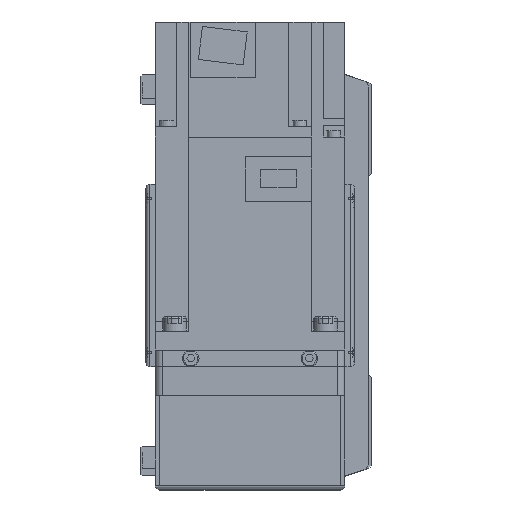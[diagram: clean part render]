
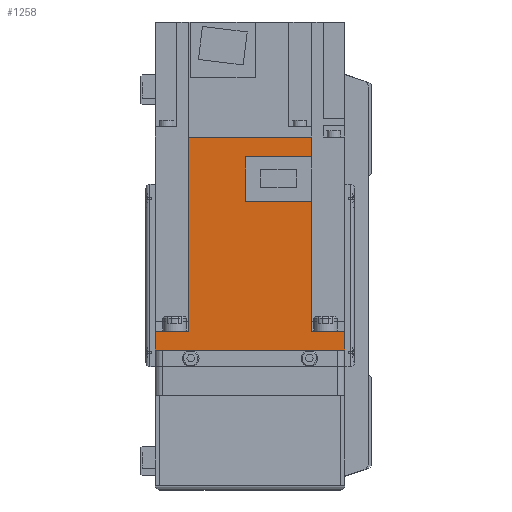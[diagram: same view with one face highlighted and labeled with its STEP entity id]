
A CAD part, left-side view. The second image highlights one B-rep face of the part: STEP entity #1258.
In plain terms, the highlighted planar face has unit normal (-1, 0, 0) as drawn and (1, 0, 0) by its records, which use the part's own axes.
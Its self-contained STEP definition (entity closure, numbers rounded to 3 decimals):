
#1258 = ADVANCED_FACE( '', ( #3501 ), #3502, .F. );
#3501 = FACE_OUTER_BOUND( '', #7119, .T. );
#3502 = PLANE( '', #7120 );
#7119 = EDGE_LOOP( '', ( #10751, #10752, #10753, #10754, #10755, #10756, #10757, #10758, #10759, #10760, #10761, #10762 ) );
#7120 = AXIS2_PLACEMENT_3D( '', #10763, #10764, #10765 );
#10751 = ORIENTED_EDGE( '', *, *, #20346, .F. );
#10752 = ORIENTED_EDGE( '', *, *, #20347, .F. );
#10753 = ORIENTED_EDGE( '', *, *, #20348, .F. );
#10754 = ORIENTED_EDGE( '', *, *, #20349, .T. );
#10755 = ORIENTED_EDGE( '', *, *, #20350, .F. );
#10756 = ORIENTED_EDGE( '', *, *, #20351, .T. );
#10757 = ORIENTED_EDGE( '', *, *, #20352, .T. );
#10758 = ORIENTED_EDGE( '', *, *, #20353, .F. );
#10759 = ORIENTED_EDGE( '', *, *, #20354, .F. );
#10760 = ORIENTED_EDGE( '', *, *, #20355, .F. );
#10761 = ORIENTED_EDGE( '', *, *, #20356, .F. );
#10762 = ORIENTED_EDGE( '', *, *, #20357, .F. );
#10763 = CARTESIAN_POINT( '', ( 40., 89.8, 40. ) );
#10764 = DIRECTION( '', ( -1., 0., 0. ) );
#10765 = DIRECTION( '', ( 0., 0., 1. ) );
#20346 = EDGE_CURVE( '', #24089, #24090, #24091, .T. );
#20347 = EDGE_CURVE( '', #24092, #24089, #24093, .T. );
#20348 = EDGE_CURVE( '', #24094, #24092, #24095, .T. );
#20349 = EDGE_CURVE( '', #24094, #24096, #24097, .T. );
#20350 = EDGE_CURVE( '', #24098, #24096, #24099, .T. );
#20351 = EDGE_CURVE( '', #24098, #24100, #24101, .T. );
#20352 = EDGE_CURVE( '', #24100, #24102, #24103, .T. );
#20353 = EDGE_CURVE( '', #24104, #24102, #24105, .T. );
#20354 = EDGE_CURVE( '', #24106, #24104, #24107, .T. );
#20355 = EDGE_CURVE( '', #24108, #24106, #24109, .T. );
#20356 = EDGE_CURVE( '', #24110, #24108, #24111, .T. );
#20357 = EDGE_CURVE( '', #24090, #24110, #24112, .T. );
#24089 = VERTEX_POINT( '', #29698 );
#24090 = VERTEX_POINT( '', #29699 );
#24091 = LINE( '', #29700, #29701 );
#24092 = VERTEX_POINT( '', #29702 );
#24093 = LINE( '', #29703, #29704 );
#24094 = VERTEX_POINT( '', #29705 );
#24095 = LINE( '', #29706, #29707 );
#24096 = VERTEX_POINT( '', #29708 );
#24097 = LINE( '', #29709, #29710 );
#24098 = VERTEX_POINT( '', #29711 );
#24099 = LINE( '', #29712, #29713 );
#24100 = VERTEX_POINT( '', #29714 );
#24101 = LINE( '', #29715, #29716 );
#24102 = VERTEX_POINT( '', #29717 );
#24103 = LINE( '', #29718, #29719 );
#24104 = VERTEX_POINT( '', #29720 );
#24105 = LINE( '', #29721, #29722 );
#24106 = VERTEX_POINT( '', #29723 );
#24107 = LINE( '', #29724, #29725 );
#24108 = VERTEX_POINT( '', #29726 );
#24109 = LINE( '', #29727, #29728 );
#24110 = VERTEX_POINT( '', #29729 );
#24111 = LINE( '', #29730, #29731 );
#24112 = LINE( '', #29732, #29733 );
#29698 = CARTESIAN_POINT( '', ( 40., 81.4, -25.95 ) );
#29699 = CARTESIAN_POINT( '', ( 40., 81.4, 1.8 ) );
#29700 = CARTESIAN_POINT( '', ( 40., 81.4, -26. ) );
#29701 = VECTOR( '', #38164, 1000. );
#29702 = CARTESIAN_POINT( '', ( 40., 89.8, -25.95 ) );
#29703 = CARTESIAN_POINT( '', ( 40., 158., -25.95 ) );
#29704 = VECTOR( '', #38165, 1000. );
#29705 = CARTESIAN_POINT( '', ( 40., 89.8, 25.95 ) );
#29706 = CARTESIAN_POINT( '', ( 40., 89.8, 40. ) );
#29707 = VECTOR( '', #38166, 1000. );
#29708 = CARTESIAN_POINT( '', ( 40., 8., 25.95 ) );
#29709 = CARTESIAN_POINT( '', ( 40., 158., 25.95 ) );
#29710 = VECTOR( '', #38167, 1000. );
#29711 = CARTESIAN_POINT( '', ( 40., 8., 40. ) );
#29712 = CARTESIAN_POINT( '', ( 40., 8., 40. ) );
#29713 = VECTOR( '', #38168, 1000. );
#29714 = CARTESIAN_POINT( '', ( 40., 0., 40. ) );
#29715 = CARTESIAN_POINT( '', ( 40., 89.8, 40. ) );
#29716 = VECTOR( '', #38169, 1000. );
#29717 = CARTESIAN_POINT( '', ( 40., 0., -40. ) );
#29718 = CARTESIAN_POINT( '', ( 40., 0., 40. ) );
#29719 = VECTOR( '', #38170, 1000. );
#29720 = CARTESIAN_POINT( '', ( 40., 8., -40. ) );
#29721 = CARTESIAN_POINT( '', ( 40., 89.8, -40. ) );
#29722 = VECTOR( '', #38171, 1000. );
#29723 = CARTESIAN_POINT( '', ( 40., 8., -25.95 ) );
#29724 = CARTESIAN_POINT( '', ( 40., 8., 40. ) );
#29725 = VECTOR( '', #38172, 1000. );
#29726 = CARTESIAN_POINT( '', ( 40., 62.8, -25.95 ) );
#29727 = CARTESIAN_POINT( '', ( 40., 158., -25.95 ) );
#29728 = VECTOR( '', #38173, 1000. );
#29729 = CARTESIAN_POINT( '', ( 40., 62.8, 1.8 ) );
#29730 = CARTESIAN_POINT( '', ( 40., 62.8, 1.8 ) );
#29731 = VECTOR( '', #38174, 1000. );
#29732 = CARTESIAN_POINT( '', ( 40., 81.4, 1.8 ) );
#29733 = VECTOR( '', #38175, 1000. );
#38164 = DIRECTION( '', ( 0., 0., 1. ) );
#38165 = DIRECTION( '', ( 0., -1., 0. ) );
#38166 = DIRECTION( '', ( 0., 0., -1. ) );
#38167 = DIRECTION( '', ( 0., -1., 0. ) );
#38168 = DIRECTION( '', ( 0., 0., -1. ) );
#38169 = DIRECTION( '', ( 0., -1., 0. ) );
#38170 = DIRECTION( '', ( 0., 0., -1. ) );
#38171 = DIRECTION( '', ( 0., -1., 0. ) );
#38172 = DIRECTION( '', ( 0., 0., -1. ) );
#38173 = DIRECTION( '', ( 0., -1., 0. ) );
#38174 = DIRECTION( '', ( 0., 0., -1. ) );
#38175 = DIRECTION( '', ( 0., -1., 0. ) );
